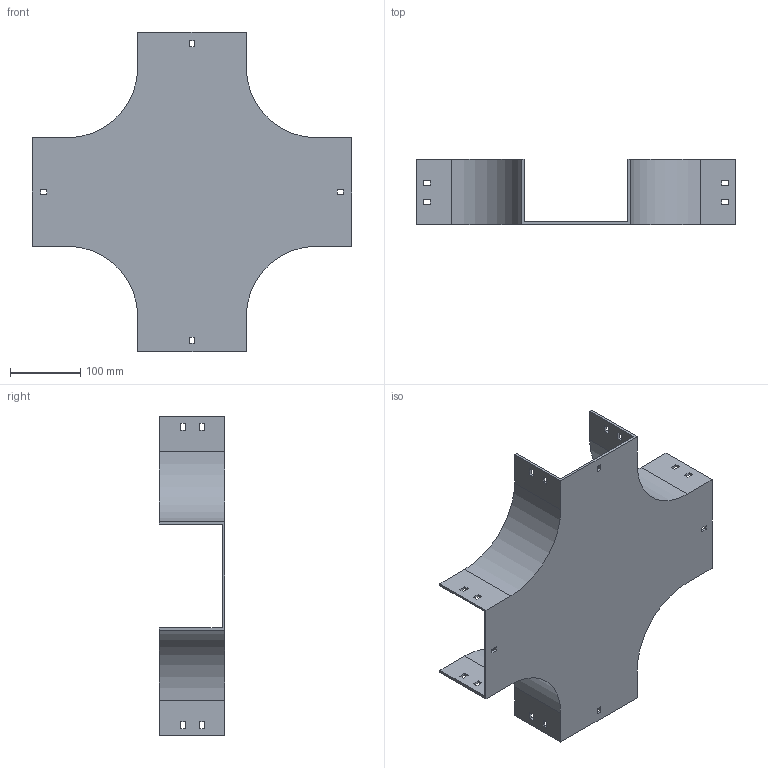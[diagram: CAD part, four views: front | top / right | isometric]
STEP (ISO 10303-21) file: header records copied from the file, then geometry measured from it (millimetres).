
FILE_DESCRIPTION (( 'STEP AP214' ), '1' );
FILE_NAME ('17B1I150.step', '2025-02-21T09:58:41', ( '' ), ( '' ), 'SwSTEP 2.0', 'SolidWorks 2023', '' );
FILE_SCHEMA (( 'AUTOMOTIVE_DESIGN' ));
Length unit declared in the file: millimetre
Products named in the file (1): 17B1I150
Bounding box: 454 x 92.5 x 454 mm (x, y, z)
Volume: 755457.6 mm3; surface area: 442275.2 mm2
Topology: 1 solids, 1 shells, 114 faces, 336 edges, 224 vertices
Faces by surface type: plane 106, cylinder 8
Entity records: 3839 total; most frequent: CARTESIAN_POINT 675, ORIENTED_EDGE 672, DIRECTION 582, EDGE_CURVE 336, LINE 320, VECTOR 320, VERTEX_POINT 224, EDGE_LOOP 154
